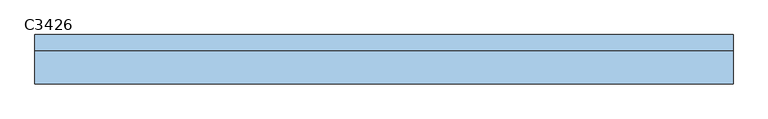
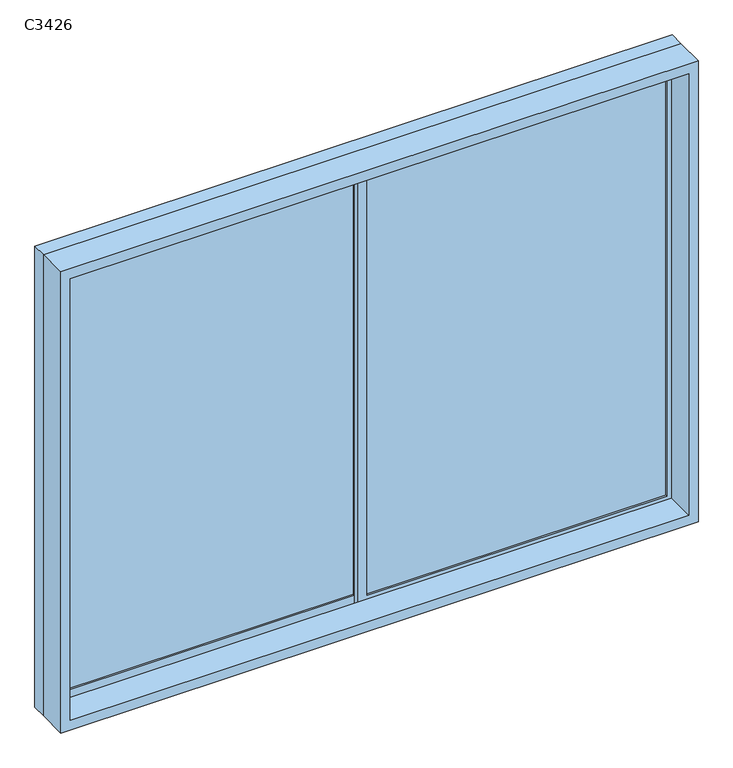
"""IFC4 building model written with IfcOpenShell, lengths in millimetres: window geometry, 推拉窗6 : C3426."""

from ifc_helpers import new_model, si_unit, frame, origin, place, context, project, spatial, polyline, outline, extrude, source, transform, mapped, element, save


def c3426_0dbdd1a9(model_context):
    return source(origin(), model_context, "Body", "SweptSolid", [
        extrude(outline(polyline([(-1615.475, 23.1265625), (-15.475, 23.1265625), (-15.475, 13.1265625), (-1615.475, 13.1265625), (-1615.475, 23.1265625)])), frame((0.0, 0.0, 675.0), z_axis=(0.0, 0.0, 1.0), x_axis=(1.0, 0.0, 0.0)), (0.0, 0.0, 1.0), 2450.0),
        extrude(outline(polyline([(34.525, -6.8734375), (1634.525, -6.8734375), (1634.525, -16.8734375), (34.525, -16.8734375), (34.525, -6.8734375)])), frame((0.0, 0.0, 675.0), z_axis=(0.0, 0.0, 1.0), x_axis=(1.0, 0.0, 0.0)), (0.0, 0.0, 1.0), 2450.0),
        extrude(outline(polyline([(3200.0, -1690.475), (600.0, -1690.475), (600.0, 1709.525), (3200.0, 1709.525), (3200.0, -1690.475)]), holes=[polyline([(3145.0, 1659.525), (655.0, 1659.525), (655.0, -1640.475), (3145.0, -1640.475), (3145.0, 1659.525)])]), frame((0.0, -186.8734375, 0.0), z_axis=(0.0, 1.0, 0.0), x_axis=(0.0, 0.0, 1.0)), (0.0, 0.0, 1.0), 160.0),
        extrude(outline(polyline([(625.0, 34.525), (3175.0, 34.525), (3175.0, -1665.475), (625.0, -1665.475), (625.0, 34.525)]), holes=[polyline([(675.0, -15.475), (675.0, -1615.475), (3125.0, -1615.475), (3125.0, -15.475), (675.0, -15.475)])]), frame((0.0, 3.1265625, 0.0), z_axis=(0.0, 1.0, 0.0), x_axis=(0.0, 0.0, 1.0)), (0.0, 0.0, 1.0), 30.0),
        extrude(outline(polyline([(3175.0, -15.475), (625.0, -15.475), (625.0, 1684.525), (3175.0, 1684.525), (3175.0, -15.475)]), holes=[polyline([(3125.0, 34.525), (3125.0, 1634.525), (675.0, 1634.525), (675.0, 34.525), (3125.0, 34.525)])]), frame((0.0, -26.8734375, 0.0), z_axis=(0.0, 1.0, 0.0), x_axis=(0.0, 0.0, 1.0)), (0.0, 0.0, 1.0), 30.0),
        extrude(outline(polyline([(3200.0, -1690.475), (600.0, -1690.475), (600.0, 1709.525), (3200.0, 1709.525), (3200.0, -1690.475)]), holes=[polyline([(625.0, -1665.475), (3175.0, -1665.475), (3175.0, 1684.525), (625.0, 1684.525), (625.0, -1665.475)])]), frame((0.0, -26.8734375, 0.0), z_axis=(0.0, 1.0, 0.0), x_axis=(0.0, 0.0, 1.0)), (0.0, 0.0, 1.0), 80.0),
    ])


if __name__ == "__main__":
    model = new_model("IFC4")
    model_context = context("Model", 3, world=origin())
    ifc_project = project(units=[si_unit("LENGTHUNIT", "METRE", prefix="MILLI")], contexts=[model_context])
    site = spatial("IfcSite", under=ifc_project)
    building = spatial("IfcBuilding", under=site)
    placement = place(None, origin())
    c3426_shape = c3426_0dbdd1a9(model_context)
    element("IfcWindow", 1, ObjectType="推拉窗6 : C3426", at=placement, inside=building, context=model_context, shape_type="MappedRepresentation", body=[
        mapped(c3426_shape, transform((0.0, 0.0, 0.0), x_axis=(1.0, 0.0, 0.0), y_axis=(0.0, 1.0, 0.0), z_axis=(0.0, 0.0, 1.0))),
    ])
    save(model, "model.ifc")
